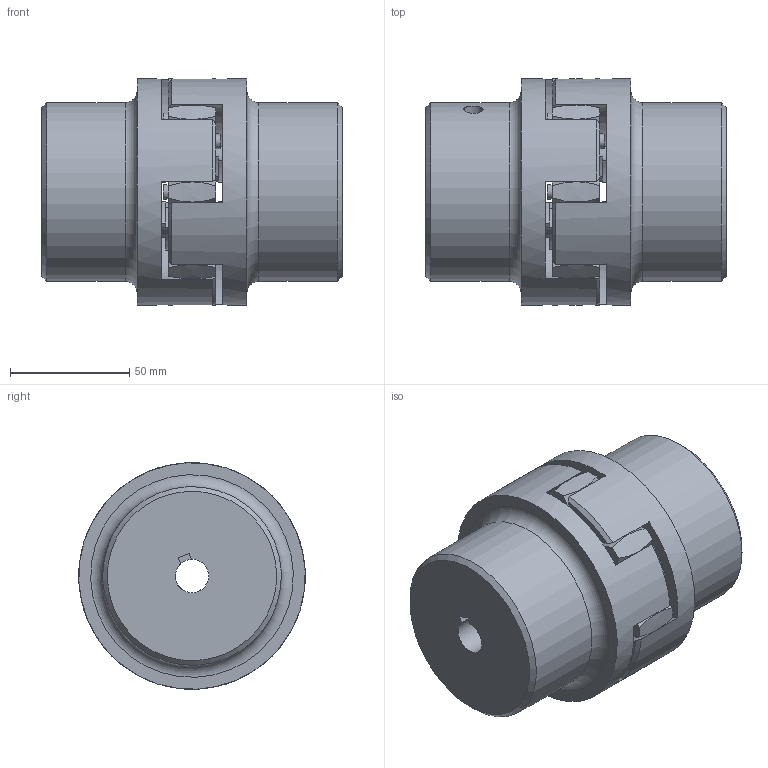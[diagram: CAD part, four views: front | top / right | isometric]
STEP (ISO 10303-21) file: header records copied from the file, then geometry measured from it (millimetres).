
FILE_DESCRIPTION(/* description */ (''),/* implementation_level */ '2;1');
FILE_NAME(/* name */ 'RP42-14-PF-14-PF',/* time_stamp */ '2024-01-05T15:28:17+01:00',/* author */ ('M. Horlacher'),/* organization */ (''),/* preprocessor_version */ 'ST-DEVELOPER v20',/* originating_system */ 'Autodesk Inventor 2024',/* authorisation */ '');
FILE_SCHEMA (('AUTOMOTIVE_DESIGN { 1 0 10303 214 3 1 1 }'));
Length unit declared in the file: millimetre
Products named in the file (4): RP STEP; RP42-Stern-92Shore; RP42-Nabe_1; RP42-Nabe_1_1
Assembly tree (3 placements, depth 2):
  RP STEP
    RP42-Stern-92Shore
    RP42-Nabe_1
    RP42-Nabe_1_1
Bounding box: 126 x 94.96 x 94.96 mm (x, y, z)
Volume: 586240 mm3; surface area: 89691.7 mm2
Topology: 3 solids, 3 shells, 137 faces, 375 edges, 250 vertices
Faces by surface type: cylinder 49, plane 44, bspline 32, cone 10, torus 2
Full cylindrical faces by diameter (mm): 6 x8, 8 x2, 46 x1, 75 x2, 95 x2
Entity records: 5847 total; most frequent: CARTESIAN_POINT 2340, ORIENTED_EDGE 750, DIRECTION 657, EDGE_CURVE 375, AXIS2_PLACEMENT_3D 277, VERTEX_POINT 250, CIRCLE 162, EDGE_LOOP 157
